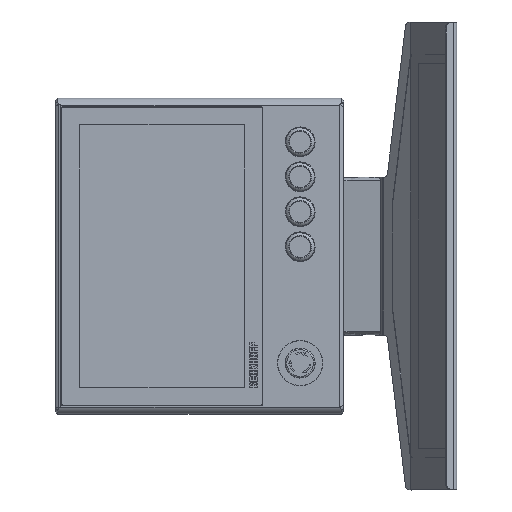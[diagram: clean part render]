
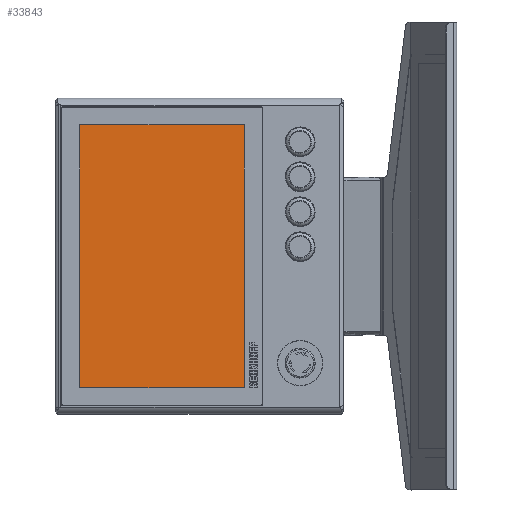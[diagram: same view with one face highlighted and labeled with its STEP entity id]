
A CAD part, top view. The second image highlights one B-rep face of the part: STEP entity #33843.
In plain terms, the highlighted planar face has unit normal (0, 0, 1).
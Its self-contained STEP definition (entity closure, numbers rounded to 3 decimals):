
#1328=PLANE('',#36329);
#2867=FACE_OUTER_BOUND('',#4748,.T.);
#4748=EDGE_LOOP('',(#25591,#25592,#25593,#25594));
#7349=LINE('',#56209,#10071);
#7350=LINE('',#56211,#10072);
#7351=LINE('',#56213,#10073);
#7352=LINE('',#56214,#10074);
#10071=VECTOR('',#42750,10.);
#10072=VECTOR('',#42751,10.);
#10073=VECTOR('',#42752,10.);
#10074=VECTOR('',#42753,10.);
#14501=VERTEX_POINT('',#56207);
#14502=VERTEX_POINT('',#56208);
#14503=VERTEX_POINT('',#56210);
#14504=VERTEX_POINT('',#56212);
#18509=EDGE_CURVE('',#14501,#14502,#7349,.T.);
#18510=EDGE_CURVE('',#14503,#14501,#7350,.T.);
#18511=EDGE_CURVE('',#14504,#14503,#7351,.T.);
#18512=EDGE_CURVE('',#14502,#14504,#7352,.T.);
#25591=ORIENTED_EDGE('',*,*,#18509,.F.);
#25592=ORIENTED_EDGE('',*,*,#18510,.F.);
#25593=ORIENTED_EDGE('',*,*,#18511,.F.);
#25594=ORIENTED_EDGE('',*,*,#18512,.F.);
#33843=ADVANCED_FACE('',(#2867),#1328,.T.);
#36329=AXIS2_PLACEMENT_3D('',#56206,#42748,#42749);
#42748=DIRECTION('center_axis',(0.,0.,
1.));
#42749=DIRECTION('ref_axis',(0.,1.,0.));
#42750=DIRECTION('',(0.,-1.,0.));
#42751=DIRECTION('',(1.,0.,0.));
#42752=DIRECTION('',(0.,1.,0.));
#42753=DIRECTION('',(-1.,0.,0.));
#56206=CARTESIAN_POINT('Origin',(0.,0.,
11.3));
#56207=CARTESIAN_POINT('',(82.4,131.4,11.3));
#56208=CARTESIAN_POINT('',(82.4,-131.4,11.3));
#56209=CARTESIAN_POINT('',(82.4,-65.7,11.3));
#56210=CARTESIAN_POINT('',(-82.4,131.4,11.3));
#56211=CARTESIAN_POINT('',(41.2,131.4,11.3));
#56212=CARTESIAN_POINT('',(-82.4,-131.4,11.3));
#56213=CARTESIAN_POINT('',(-82.4,65.7,11.3));
#56214=CARTESIAN_POINT('',(-41.2,-131.4,11.3));
